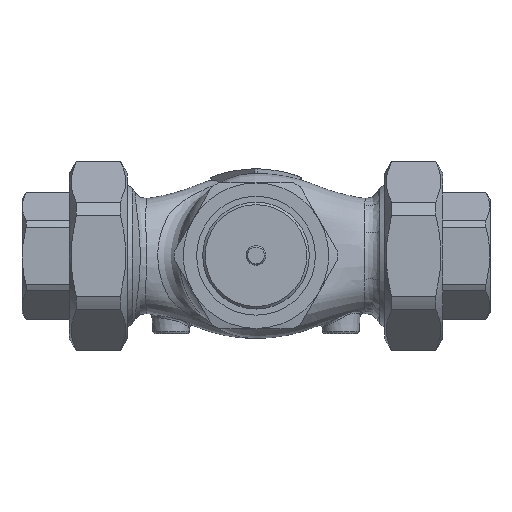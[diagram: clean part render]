
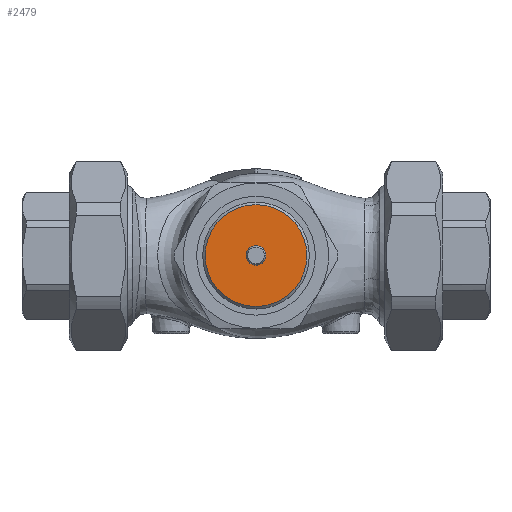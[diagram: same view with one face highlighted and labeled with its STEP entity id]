
A CAD part, top view. The second image highlights one B-rep face of the part: STEP entity #2479.
In plain terms, the highlighted planar face has unit normal (0, 0, 1).
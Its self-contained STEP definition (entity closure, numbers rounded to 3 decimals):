
#2239=PLANE('',#9845);
#2479=ADVANCED_FACE('',(#3293,#3294),#2239,.F.);
#3293=FACE_BOUND('',#3563,.T.);
#3294=FACE_BOUND('',#3564,.T.);
#3563=EDGE_LOOP('',(#4510));
#3564=EDGE_LOOP('',(#4511));
#4510=ORIENTED_EDGE('',*,*,#7966,.F.);
#4511=ORIENTED_EDGE('',*,*,#7967,.T.);
#7029=VERTEX_POINT('',#21210);
#7030=VERTEX_POINT('',#21212);
#7966=EDGE_CURVE('',#7029,#7029,#9231,.T.);
#7967=EDGE_CURVE('',#7030,#7030,#9232,.T.);
#9231=CIRCLE('',#9843,4.);
#9232=CIRCLE('',#9844,21.);
#9843=AXIS2_PLACEMENT_3D('',#21209,#11099,#11100);
#9844=AXIS2_PLACEMENT_3D('',#21211,#11101,#11102);
#9845=AXIS2_PLACEMENT_3D('',#21213,#11103,#11104);
#11099=DIRECTION('',(0.,0.,1.));
#11100=DIRECTION('',(-1.,0.,0.));
#11101=DIRECTION('',(0.,0.,1.));
#11102=DIRECTION('',(-1.,0.,0.));
#11103=DIRECTION('',(0.,0.,-1.));
#11104=DIRECTION('',(-1.,0.,0.));
#21209=CARTESIAN_POINT('',(0.,0.,101.));
#21210=CARTESIAN_POINT('',(-4.,0.,101.));
#21211=CARTESIAN_POINT('',(0.,0.,101.));
#21212=CARTESIAN_POINT('',(-21.,0.,101.));
#21213=CARTESIAN_POINT('',(0.,-11.25,101.));
